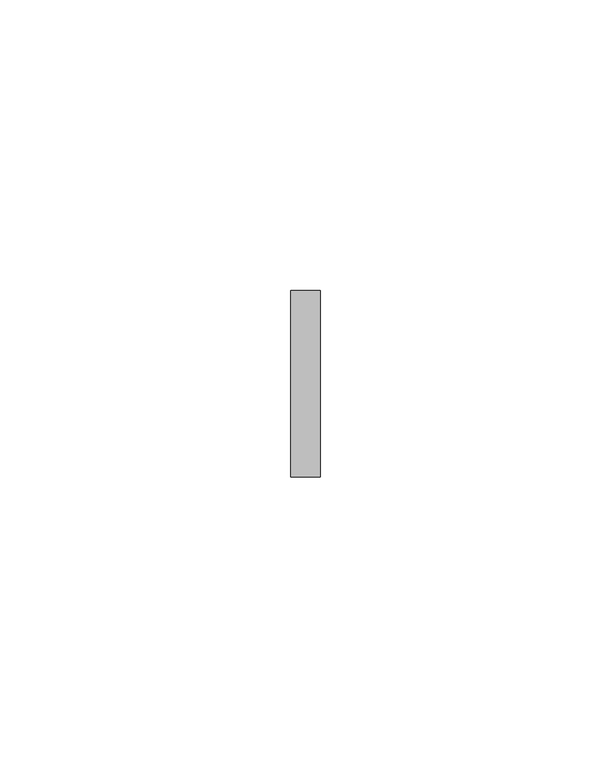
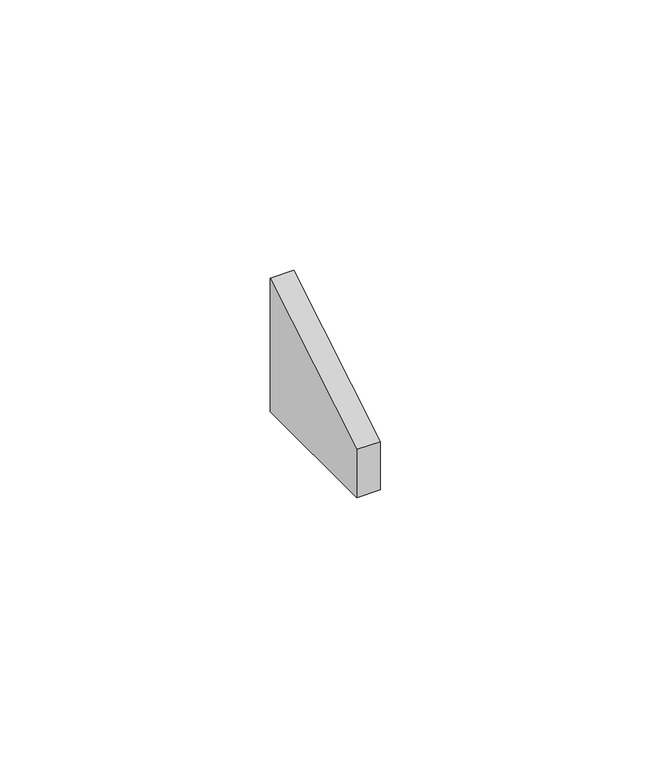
"""IFC4 building model written with IfcOpenShell, lengths in millimetres: proxy geometry, Odbojnik - OPK20 : Odbojnik - OPK20."""

from ifc_helpers import new_model, si_unit, frame, origin, place, context, project, spatial, polyline, outline, extrude, source, transform, mapped, element, save


def generic_models_af526118(model_context):
    return source(origin(), model_context, "Body", "SweptSolid", [
        extrude(outline(polyline([(26.9601139, 0.0), (26.9601139, -31.9999999), (16.0755384, -31.9999999), (-3.2311283, 0.0), (26.9601139, 0.0)])), frame((-2.5023496, 15.999705, 26.9601139), z_axis=(0.9999999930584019, 0.00011782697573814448, 0.0), x_axis=(0.0, 0.0, -1.0)), (0.0, 0.0, 1.0), 5.0046992),
    ])


if __name__ == "__main__":
    model = new_model("IFC4")
    model_context = context("Model", 3, world=origin())
    ifc_project = project(units=[si_unit("LENGTHUNIT", "METRE", prefix="MILLI")], contexts=[model_context])
    site = spatial("IfcSite", under=ifc_project)
    building = spatial("IfcBuilding", under=site)
    placement = place(None, origin())
    generic_models_shape = generic_models_af526118(model_context)
    element("IfcBuildingElementProxy", 1, Name="Odbojnik - OPK20 : Odbojnik - OPK20", ObjectType="Odbojnik - OPK20 : Odbojnik - OPK20", at=placement, inside=building, context=model_context, shape_type="MappedRepresentation", body=[
        mapped(generic_models_shape, transform((0.0, 0.0, 0.0), x_axis=(1.0, 0.0, 0.0), y_axis=(0.0, 1.0, 0.0), z_axis=(0.0, 0.0, 1.0))),
    ])
    save(model, "model.ifc")
